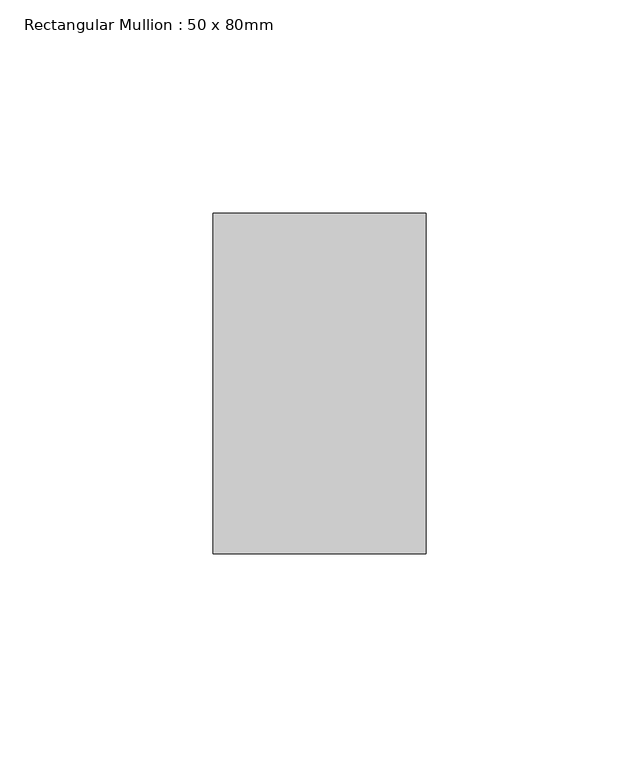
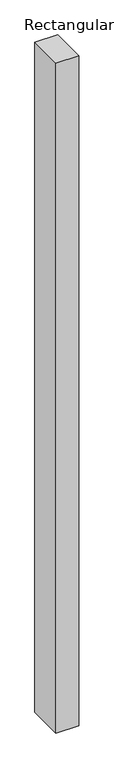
"""IFC4 building model written with IfcOpenShell, lengths in millimetres: member geometry, Rectangular Mullion : 50 x 80mm."""

from ifc_helpers import new_model, si_unit, frame, origin, place, context, project, spatial, polyline, outline, extrude, source, transform, mapped, element, save


def rectangular_mullion_50_x_80mm_e6c40bfc(model_context):
    return source(origin(), model_context, "Body", "SweptSolid", [
        extrude(outline(polyline([(0.0, 25.0), (0.0, -55.0), (-50.0, -55.0), (-50.0, 25.0), (0.0, 25.0)])), frame((0.0, 0.0, -1554.9992883), z_axis=(0.0, 0.0, 1.0), x_axis=(1.0, 0.0, 0.0)), (0.0, 0.0, 1.0), 1554.9992883),
    ])


if __name__ == "__main__":
    model = new_model("IFC4")
    model_context = context("Model", 3, world=origin())
    ifc_project = project(units=[si_unit("LENGTHUNIT", "METRE", prefix="MILLI")], contexts=[model_context])
    site = spatial("IfcSite", under=ifc_project)
    building = spatial("IfcBuilding", under=site)
    placement = place(None, origin())
    rectangular_mullion_50_x_80mm_shape = rectangular_mullion_50_x_80mm_e6c40bfc(model_context)
    element("IfcMember", 1, ObjectType="Rectangular Mullion : 50 x 80mm", at=placement, inside=building, context=model_context, shape_type="MappedRepresentation", body=[
        mapped(rectangular_mullion_50_x_80mm_shape, transform((0.0, 0.0, 0.0), x_axis=(1.0, 0.0, 0.0), y_axis=(0.0, 1.0, 0.0), z_axis=(0.0, 0.0, 1.0))),
    ])
    save(model, "model.ifc")
